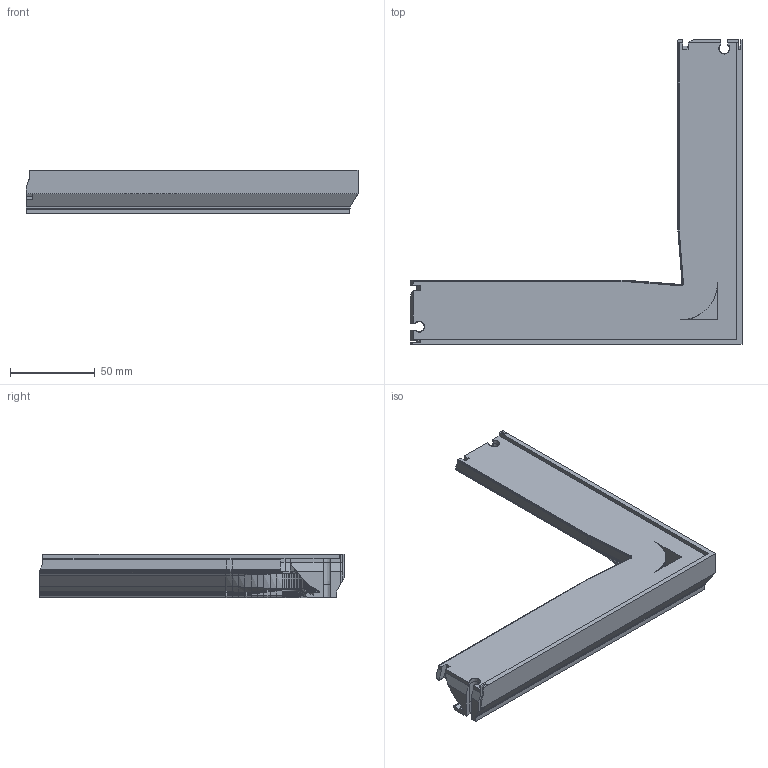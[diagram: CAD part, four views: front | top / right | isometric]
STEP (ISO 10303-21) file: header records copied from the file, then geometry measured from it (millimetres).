
FILE_DESCRIPTION(('Open CASCADE Model'),'2;1');
FILE_NAME('Open CASCADE Shape Model','2026-10-24T07:18:23',('Author'),( 'Open CASCADE'),'Open CASCADE STEP processor 8.0','build123d', 'Unknown');
FILE_SCHEMA(('AUTOMOTIVE_DESIGN { 1 0 10303 214 1 1 1 1 }'));
Products named in the file (1): SOLID
Bounding box: 196.4 x 180.4 x 26 mm (x, y, z)
Volume: 205162.2 mm3; surface area: 52066.9 mm2
Topology: 1 solids, 1 shells, 2410 faces, 5208 edges, 2801 vertices
Faces by surface type: bspline 1918, plane 486, cone 6
Entity records: 125475 total; most frequent: CARTESIAN_POINT 32807, DIRECTION 11712, LINE 10706, VECTOR 10706, ORIENTED_EDGE 10416, PCURVE 10416, DEFINITIONAL_REPRESENTATION 10416, EDGE_CURVE 5208
